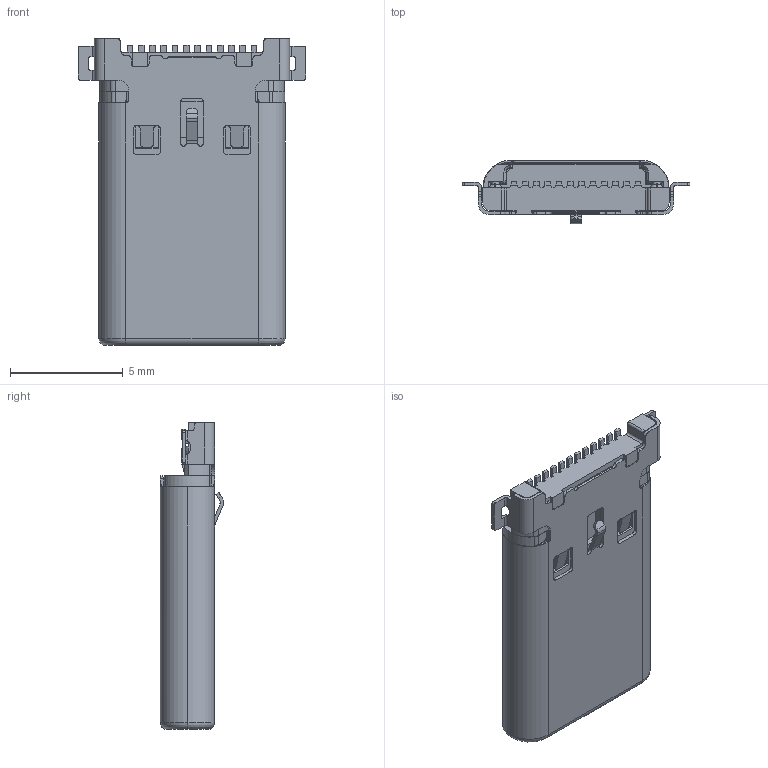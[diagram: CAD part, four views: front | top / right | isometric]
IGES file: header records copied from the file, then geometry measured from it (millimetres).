
Start section:  PTC IGES file: cm0950001.igs
Global section: file name: cm0950001.igs; native system: Creo Parametric by PTC Inc.; preprocessor: 2016510; author: Administrator; organization: Unknown; date: 20180711.111330; units: millimetre
Bounding box: 10.1 x 2.8 x 13.6 mm (x, y, z)
Volume: 158.4 mm3; surface area: 1114.8 mm2
Topology: 1 solids, 8 shells, 1922 faces, 5544 edges, 3489 vertices
Faces by surface type: bspline 1432, revolution 490
